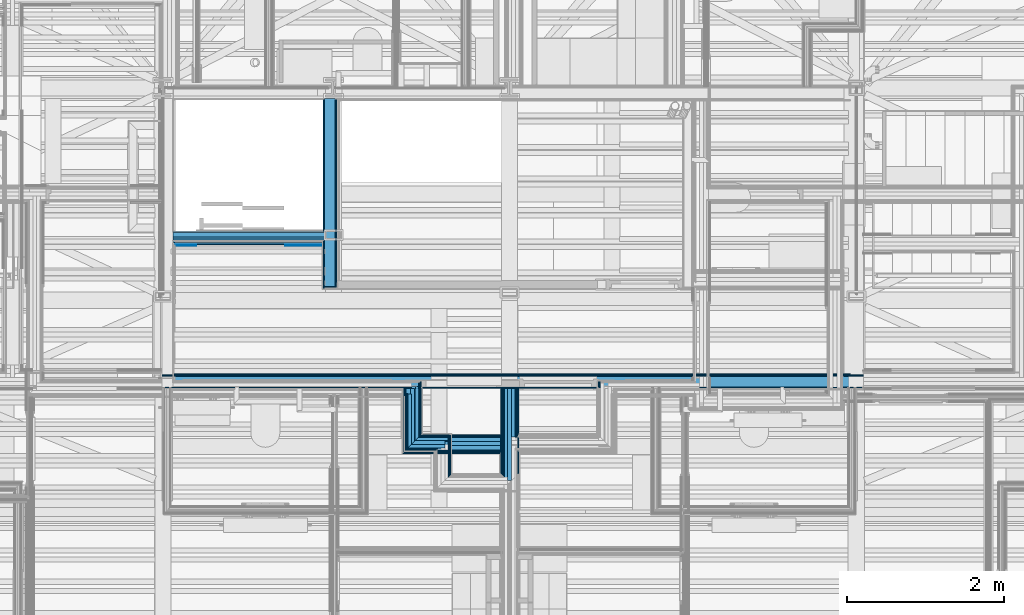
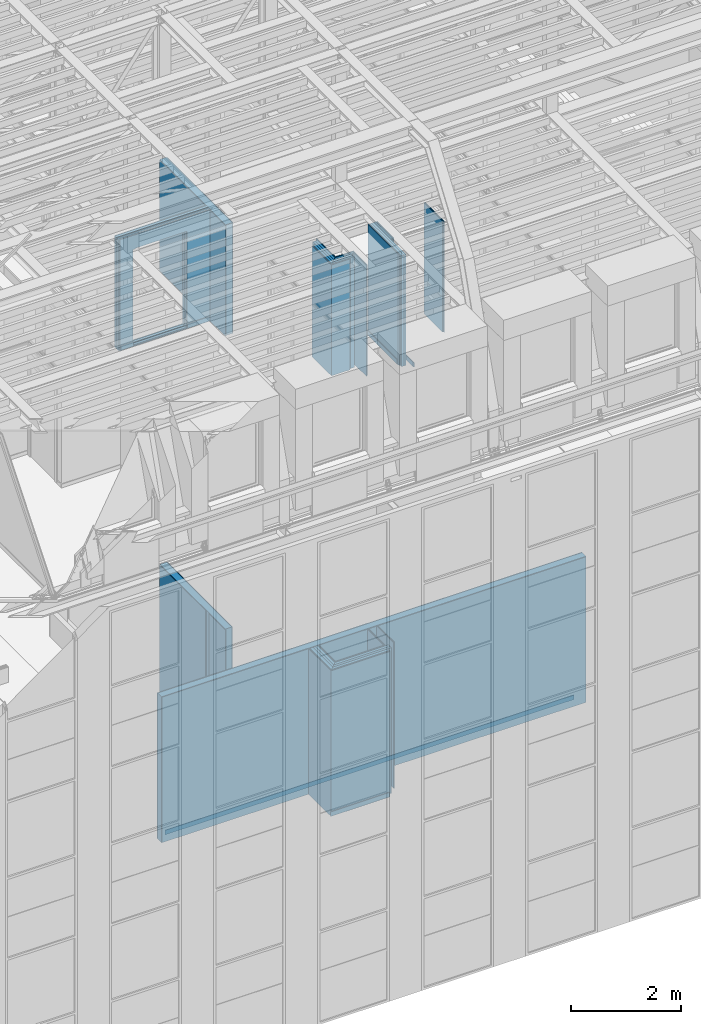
# One storey, part 35 of 183: 65 building element parts, 1 opening, 12 elements without a shape of their own.
"""IFC2X3 building model written with IfcOpenShell, lengths in metres."""

from ifc_helpers import new_model, entity, si_unit, converted_unit, derived_unit, money_unit, direction, frame, frame_2d, origin_with_axes, place, context, subcontext, project, spatial, polyline, rectangle, outline, extrude, material, type_object, element, aggregate, save


model = new_model("IFC2X3")

# Units and contexts
model_context = context("Model", 3, precision=1e-05, world=origin_with_axes(), true_north=direction((0.0, 1.0)))
body_context = subcontext(model_context, "Body", "Model", "MODEL_VIEW", scale=1.0)
ifc_project = project(units=[si_unit("LENGTHUNIT", "METRE"), si_unit("AREAUNIT", "SQUARE_METRE"), si_unit("VOLUMEUNIT", "CUBIC_METRE"), si_unit("ABSORBEDDOSEUNIT", "GRAY"), si_unit("AMOUNTOFSUBSTANCEUNIT", "MOLE"), si_unit("DOSEEQUIVALENTUNIT", "SIEVERT"), si_unit("ELECTRICCAPACITANCEUNIT", "FARAD"), si_unit("ELECTRICCHARGEUNIT", "COULOMB"), si_unit("ELECTRICCONDUCTANCEUNIT", "SIEMENS"), si_unit("ELECTRICCURRENTUNIT", "AMPERE"), si_unit("ELECTRICRESISTANCEUNIT", "OHM"), si_unit("ELECTRICVOLTAGEUNIT", "VOLT"), si_unit("ENERGYUNIT", "JOULE"), si_unit("FORCEUNIT", "NEWTON"), si_unit("FREQUENCYUNIT", "HERTZ"), si_unit("ILLUMINANCEUNIT", "LUX"), si_unit("INDUCTANCEUNIT", "HENRY"), si_unit("LUMINOUSFLUXUNIT", "LUMEN"), si_unit("LUMINOUSINTENSITYUNIT", "CANDELA"), si_unit("MAGNETICFLUXDENSITYUNIT", "TESLA"), si_unit("MAGNETICFLUXUNIT", "WEBER"), si_unit("MASSUNIT", "GRAM"), converted_unit("PLANEANGLEUNIT", "degree", entity("IfcReal", 0.0174532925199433), si_unit("PLANEANGLEUNIT", "RADIAN"), dimensions=[0, 0, 0, 0, 0, 0, 0]), si_unit("POWERUNIT", "WATT"), si_unit("PRESSUREUNIT", "PASCAL"), si_unit("RADIOACTIVITYUNIT", "BECQUEREL"), si_unit("SOLIDANGLEUNIT", "STERADIAN"), si_unit("THERMODYNAMICTEMPERATUREUNIT", "KELVIN"), si_unit("TIMEUNIT", "SECOND"), derived_unit("ACCELERATIONUNIT", [(si_unit("LENGTHUNIT", "METRE"), 1), (si_unit("TIMEUNIT", "SECOND"), -2)]), derived_unit("ANGULARVELOCITYUNIT", [(converted_unit("PLANEANGLEUNIT", "degree", entity("IfcReal", 0.0174532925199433), si_unit("PLANEANGLEUNIT", "RADIAN"), dimensions=[0, 0, 0, 0, 0, 0, 0]), 1), (si_unit("TIMEUNIT", "SECOND"), -1)]), derived_unit("CURVATUREUNIT", [(converted_unit("PLANEANGLEUNIT", "degree", entity("IfcReal", 0.0174532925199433), si_unit("PLANEANGLEUNIT", "RADIAN"), dimensions=[0, 0, 0, 0, 0, 0, 0]), 1), (si_unit("LENGTHUNIT", "METRE"), -1)]), derived_unit("DYNAMICVISCOSITYUNIT", [(si_unit("PRESSUREUNIT", "PASCAL"), 1), (si_unit("TIMEUNIT", "SECOND"), 1)]), derived_unit("HEATFLUXDENSITYUNIT", [(si_unit("POWERUNIT", "WATT"), 1), (si_unit("LENGTHUNIT", "METRE"), -2)]), derived_unit("HEATINGVALUEUNIT", [(si_unit("ENERGYUNIT", "JOULE"), 1), (si_unit("MASSUNIT", "GRAM"), -1)]), derived_unit("INTEGERCOUNTRATEUNIT", [(si_unit("TIMEUNIT", "SECOND"), -1)]), derived_unit("IONCONCENTRATIONUNIT", [(si_unit("MASSUNIT", "GRAM"), 1), (si_unit("VOLUMEUNIT", "CUBIC_METRE"), -1)]), derived_unit("ISOTHERMALMOISTURECAPACITYUNIT", [(si_unit("VOLUMEUNIT", "CUBIC_METRE"), 1), (si_unit("MASSUNIT", "GRAM"), -1)]), derived_unit("KINEMATICVISCOSITYUNIT", [(si_unit("AREAUNIT", "SQUARE_METRE"), 1), (si_unit("TIMEUNIT", "SECOND"), -1)]), derived_unit("LINEARFORCEUNIT", [(si_unit("FORCEUNIT", "NEWTON"), 1), (si_unit("LENGTHUNIT", "METRE"), -1)]), derived_unit("LINEARMOMENTUNIT", [(si_unit("FORCEUNIT", "NEWTON"), 1), (si_unit("LENGTHUNIT", "METRE"), -1)]), derived_unit("LINEARSTIFFNESSUNIT", [(si_unit("FORCEUNIT", "NEWTON"), 1), (si_unit("LENGTHUNIT", "METRE"), -1)]), derived_unit("LINEARVELOCITYUNIT", [(si_unit("LENGTHUNIT", "METRE"), 1), (si_unit("TIMEUNIT", "SECOND"), -1)]), derived_unit("LUMINOUSINTENSITYDISTRIBUTIONUNIT", [(si_unit("LUMINOUSINTENSITYUNIT", "CANDELA"), 1), (si_unit("LUMINOUSFLUXUNIT", "LUMEN"), -1)]), derived_unit("MASSDENSITYUNIT", [(si_unit("MASSUNIT", "GRAM"), 1), (si_unit("VOLUMEUNIT", "CUBIC_METRE"), -1)]), derived_unit("MASSFLOWRATEUNIT", [(si_unit("MASSUNIT", "GRAM"), 1), (si_unit("TIMEUNIT", "SECOND"), -1)]), derived_unit("MASSPERLENGTHUNIT", [(si_unit("MASSUNIT", "GRAM"), 1), (si_unit("LENGTHUNIT", "METRE"), -1)]), derived_unit("MODULUSOFELASTICITYUNIT", [(si_unit("FORCEUNIT", "NEWTON"), 1), (si_unit("AREAUNIT", "SQUARE_METRE"), -1)]), derived_unit("MODULUSOFLINEARSUBGRADEREACTIONUNIT", [(si_unit("FORCEUNIT", "NEWTON"), 1), (si_unit("LENGTHUNIT", "METRE"), -2)]), derived_unit("MODULUSOFROTATIONALSUBGRADEREACTIONUNIT", [(si_unit("FORCEUNIT", "NEWTON"), 1), (si_unit("LENGTHUNIT", "METRE"), 1)]), derived_unit("MODULUSOFSUBGRADEREACTIONUNIT", [(si_unit("FORCEUNIT", "NEWTON"), 1), (si_unit("VOLUMEUNIT", "CUBIC_METRE"), -1)]), derived_unit("MOISTUREDIFFUSIVITYUNIT", [(si_unit("VOLUMEUNIT", "CUBIC_METRE"), 1), (si_unit("TIMEUNIT", "SECOND"), -1)]), derived_unit("MOLECULARWEIGHTUNIT", [(si_unit("MASSUNIT", "GRAM"), 1), (si_unit("AMOUNTOFSUBSTANCEUNIT", "MOLE"), -1)]), derived_unit("PLANARFORCEUNIT", [(si_unit("FORCEUNIT", "NEWTON"), 1), (si_unit("LENGTHUNIT", "METRE"), -2)]), derived_unit("ROTATIONALFREQUENCYUNIT", [(si_unit("TIMEUNIT", "SECOND"), -1)]), derived_unit("ROTATIONALMASSUNIT", [(si_unit("MASSUNIT", "GRAM"), 1), (si_unit("LENGTHUNIT", "METRE"), 2)]), derived_unit("ROTATIONALSTIFFNESSUNIT", [(si_unit("FORCEUNIT", "NEWTON"), 1), (si_unit("LENGTHUNIT", "METRE"), 1), (converted_unit("PLANEANGLEUNIT", "degree", entity("IfcReal", 0.0174532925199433), si_unit("PLANEANGLEUNIT", "RADIAN"), dimensions=[0, 0, 0, 0, 0, 0, 0]), -1)]), derived_unit("SECTIONAREAINTEGRALUNIT", [(si_unit("LENGTHUNIT", "METRE"), 5)]), derived_unit("SECTIONMODULUSUNIT", [(si_unit("LENGTHUNIT", "METRE"), 3)]), derived_unit("SHEARMODULUSUNIT", [(si_unit("FORCEUNIT", "NEWTON"), 1), (si_unit("AREAUNIT", "SQUARE_METRE"), -1)]), derived_unit("SOUNDPOWERUNIT", [(si_unit("ENERGYUNIT", "JOULE"), 1), (si_unit("TIMEUNIT", "SECOND"), -1)]), derived_unit("SPECIFICHEATCAPACITYUNIT", [(si_unit("FORCEUNIT", "NEWTON"), 1), (si_unit("MASSUNIT", "GRAM"), -1), (si_unit("THERMODYNAMICTEMPERATUREUNIT", "KELVIN"), -1)]), derived_unit("TEMPERATUREGRADIENTUNIT", [(si_unit("THERMODYNAMICTEMPERATUREUNIT", "KELVIN"), 1), (si_unit("LENGTHUNIT", "METRE"), -1)]), derived_unit("THERMALADMITTANCEUNIT", [(si_unit("POWERUNIT", "WATT"), 1), (si_unit("AREAUNIT", "SQUARE_METRE"), -1), (si_unit("THERMODYNAMICTEMPERATUREUNIT", "KELVIN"), -1)]), derived_unit("THERMALCONDUCTANCEUNIT", [(si_unit("POWERUNIT", "WATT"), 1), (si_unit("LENGTHUNIT", "METRE"), -1), (si_unit("THERMODYNAMICTEMPERATUREUNIT", "KELVIN"), -1)]), derived_unit("THERMALEXPANSIONCOEFFICIENTUNIT", [(si_unit("THERMODYNAMICTEMPERATUREUNIT", "KELVIN"), -1)]), derived_unit("THERMALRESISTANCEUNIT", [(si_unit("AREAUNIT", "SQUARE_METRE"), 1), (si_unit("POWERUNIT", "WATT"), -1)]), derived_unit("THERMALTRANSMITTANCEUNIT", [(si_unit("POWERUNIT", "WATT"), 1), (si_unit("AREAUNIT", "SQUARE_METRE"), -1), (si_unit("THERMODYNAMICTEMPERATUREUNIT", "KELVIN"), -1)]), derived_unit("TORQUEUNIT", [(si_unit("FORCEUNIT", "NEWTON"), 1), (si_unit("LENGTHUNIT", "METRE"), 1)]), derived_unit("VAPORPERMEABILITYUNIT", [(si_unit("MASSUNIT", "GRAM"), 1), (si_unit("TIMEUNIT", "SECOND"), -1)]), derived_unit("VOLUMETRICFLOWRATEUNIT", [(si_unit("VOLUMEUNIT", "CUBIC_METRE"), 1), (si_unit("TIMEUNIT", "SECOND"), -1)]), derived_unit("WARPINGCONSTANTUNIT", [(si_unit("LENGTHUNIT", "METRE"), 6)]), derived_unit("WARPINGMOMENTUNIT", [(si_unit("FORCEUNIT", "NEWTON"), 1), (si_unit("LENGTHUNIT", "METRE"), 2)]), money_unit("GBP")], contexts=[model_context])

# Site, building, storey
site_placement = place(None, origin_with_axes())
site = spatial("IfcSite", under=ifc_project, at=site_placement, Name="Site", CompositionType="ELEMENT")
building_placement = place(site_placement, origin_with_axes())
building = spatial("IfcBuilding", under=site, at=building_placement, Name="Building01", CompositionType="ELEMENT")
storey_placement = place(building_placement, frame((0.0, 0.0, 5.15), z_axis=(0.0, 0.0, 1.0), x_axis=(1.0, 0.0, 0.0)))
storey = spatial("IfcBuildingStorey", under=building, at=storey_placement, Name="1F", CompositionType="ELEMENT", Elevation=5.15)

# Wall, building element parts
wall_type_1 = type_object("IfcWallType", Name="SHE_A-Walls_Type03a_BlockworkWall_170mm", PredefinedType="NOTDEFINED")
wall_1_placement = place(storey_placement, frame((11.145, 6.275, 0.0), z_axis=(0.0, 0.0, 1.0), x_axis=(0.0, 1.0, 0.0)))
wall_1 = element("IfcWall", 1, at=wall_1_placement, inside=storey, type_object=wall_type_1, Name="4B", ObjectType="SHE_A-Walls_Type03a_BlockworkWall_170mm")
ifc_material_1 = material(Name="A_BSUK_WallInternal_Finishes_Plasterboard")
placement_1 = place(wall_1_placement, origin_with_axes())
building_element_part_1 = element("IfcBuildingElementPart", 2, at=placement_1, material=ifc_material_1, Name="2", context=body_context, shape_type="SweptSolid", body=[
    extrude(rectangle(XDim=2.375, YDim=0.015, at=frame_2d((1.1875, -0.1475), x_axis=(-1.0, 0.0))), origin_with_axes(), (0.0, 0.0, 1.0), 3.24),
])
ifc_material_2 = material(Name="A_BSUK_WallsInternal_Block")
building_element_part_2 = element("IfcBuildingElementPart", 3, at=placement_1, material=ifc_material_2, Name="3", context=body_context, shape_type="SweptSolid", body=[
    extrude(rectangle(XDim=2.39, YDim=0.14, at=frame_2d((1.195, -0.07), x_axis=(-1.0, 0.0))), origin_with_axes(), (0.0, 0.0, 1.0), 3.24),
])
ifc_material_3 = material(Name="A_BSUK_WallInternal_Finishes_Plaster")
building_element_part_3 = element("IfcBuildingElementPart", 4, at=placement_1, material=ifc_material_3, Name="4", context=body_context, shape_type="SweptSolid", body=[
    extrude(outline(polyline([(0.575, 0.015), (-0.025, 0.015), (-0.025, 0.0), (0.59, 0.0), (0.575, 0.015)])), origin_with_axes(), (0.0, 0.0, 1.0), 3.24),
])
building_element_part_4 = element("IfcBuildingElementPart", 5, at=placement_1, material=ifc_material_3, Name="5", context=body_context, shape_type="SweptSolid", body=[
    extrude(outline(polyline([(2.375, 0.015), (0.705, 0.015), (0.69, 0.0), (2.375, 0.0), (2.375, 0.015)])), origin_with_axes(), (0.0, 0.0, 1.0), 3.24),
])
aggregate(wall_1, [building_element_part_1, building_element_part_2, building_element_part_3, building_element_part_4])

wall_type_2 = type_object("IfcWallType", Name="SHE_A-Walls_Type01c_Partywall_225mm_twin_tall", PredefinedType="NOTDEFINED")
wall_2_placement = place(storey_placement, frame((12.288, 4.302428, 0.0), z_axis=(0.0, 0.0, 1.0), x_axis=(1.0, 0.0, 0.0)))
wall_2 = element("IfcWall", 6, at=wall_2_placement, inside=storey, type_object=wall_type_2, Name="1C", ObjectType="SHE_A-Walls_Type01c_Partywall_225mm_twin_tall")
ifc_material_4 = material(Name="A_BSUK_Walls_Timber")
placement_2 = place(wall_2_placement, origin_with_axes())
building_element_part_5 = element("IfcBuildingElementPart", 7, at=placement_2, material=ifc_material_4, Name="1", context=body_context, shape_type="SweptSolid", body=[
    extrude(rectangle(XDim=1.2375, YDim=0.015, at=frame_2d((0.46575, -0.1455), x_axis=(-1.0, 0.0))), frame((0.0, 0.0, 0.015), z_axis=(0.0, 0.0, 1.0), x_axis=(1.0, 0.0, 0.0)), (0.0, 0.0, 1.0), 0.1),
])
building_element_part_6 = element("IfcBuildingElementPart", 8, at=placement_2, material=ifc_material_1, Name="2", context=body_context, shape_type="SweptSolid", body=[
    extrude(outline(polyline([(1.0995, -0.123), (-0.123, -0.123), (-0.138, -0.138), (1.0995, -0.138), (1.0995, -0.123)])), origin_with_axes(), (0.0, 0.0, 1.0), 3.24),
])
building_element_part_7 = element("IfcBuildingElementPart", 9, at=placement_2, material=ifc_material_1, Name="3", context=body_context, shape_type="SweptSolid", body=[
    extrude(outline(polyline([(1.1145, -0.108), (-0.108, -0.108), (-0.123, -0.123), (1.1145, -0.123), (1.1145, -0.108)])), origin_with_axes(), (0.0, 0.0, 1.0), 3.24),
])
ifc_material_5 = material(Name="Air Cavity")
building_element_part_8 = element("IfcBuildingElementPart", 10, at=placement_2, material=ifc_material_5, Name="4", context=body_context, shape_type="SweptSolid", body=[
    extrude(outline(polyline([(1.1145, -0.05), (-0.05, -0.05), (-0.108, -0.108), (1.1145, -0.108), (1.1145, -0.05)])), origin_with_axes(), (0.0, 0.0, 1.0), 3.24),
])
ifc_material_6 = material(Name="A_BSUK_Insulation")
building_element_part_9 = element("IfcBuildingElementPart", 11, at=placement_2, material=ifc_material_6, Name="5", context=body_context, shape_type="SweptSolid", body=[
    extrude(outline(polyline([(1.1875, 0.0), (0.0, 0.0), (-0.05, -0.05), (1.1875, -0.05), (1.1875, 0.0)])), origin_with_axes(), (0.0, 0.0, 1.0), 3.24),
])
building_element_part_10 = element("IfcBuildingElementPart", 12, at=placement_2, material=ifc_material_5, Name="6", context=body_context, shape_type="SweptSolid", body=[
    extrude(outline(polyline([(1.1875, 0.057), (0.057, 0.057), (0.0, 0.0), (1.1875, 0.0), (1.1875, 0.057)])), origin_with_axes(), (0.0, 0.0, 1.0), 3.24),
])
building_element_part_11 = element("IfcBuildingElementPart", 13, at=placement_2, material=ifc_material_1, Name="7", context=body_context, shape_type="SweptSolid", body=[
    extrude(outline(polyline([(1.1145, 0.072), (0.072, 0.072), (0.057, 0.057), (1.1145, 0.057), (1.1145, 0.072)])), origin_with_axes(), (0.0, 0.0, 1.0), 3.24),
])
building_element_part_12 = element("IfcBuildingElementPart", 14, at=placement_2, material=ifc_material_1, Name="8", context=body_context, shape_type="SweptSolid", body=[
    extrude(outline(polyline([(1.1145, 0.087), (0.087, 0.087), (0.072, 0.072), (1.1145, 0.072), (1.1145, 0.087)])), origin_with_axes(), (0.0, 0.0, 1.0), 3.24),
])
aggregate(wall_2, [building_element_part_5, building_element_part_6, building_element_part_7, building_element_part_8, building_element_part_9, building_element_part_10, building_element_part_11, building_element_part_12])

wall_3_placement = place(storey_placement, frame((13.5005, 4.995, 0.0), z_axis=(0.0, 0.0, 1.0), x_axis=(0.0, -1.0, 0.0)))
wall_3 = element("IfcWall", 15, at=wall_3_placement, inside=storey, type_object=wall_type_2, Name="1C", ObjectType="SHE_A-Walls_Type01c_Partywall_225mm_twin_tall")
placement_3 = place(wall_3_placement, origin_with_axes())
building_element_part_13 = element("IfcBuildingElementPart", 16, at=placement_3, material=ifc_material_1, Name="2", context=body_context, shape_type="SweptSolid", body=[
    extrude(rectangle(XDim=0.590572, YDim=0.015, at=frame_2d((0.310286, -0.1055), x_axis=(-1.0, 0.0))), origin_with_axes(), (0.0, 0.0, 1.0), 3.24),
])
building_element_part_14 = element("IfcBuildingElementPart", 17, at=placement_3, material=ifc_material_1, Name="4", context=body_context, shape_type="SweptSolid", body=[
    extrude(rectangle(XDim=0.620572, YDim=0.015, at=frame_2d((0.325286, -0.0905), x_axis=(-1.0, 0.0))), origin_with_axes(), (0.0, 0.0, 1.0), 3.24),
])
building_element_part_15 = element("IfcBuildingElementPart", 18, at=placement_3, material=ifc_material_1, Name="9", context=body_context, shape_type="SweptSolid", body=[
    extrude(rectangle(XDim=0.620572, YDim=0.015, at=frame_2d((0.325286, 0.0895), x_axis=(-1.0, 0.0))), origin_with_axes(), (0.0, 0.0, 1.0), 3.24),
])
building_element_part_16 = element("IfcBuildingElementPart", 19, at=placement_3, material=ifc_material_1, Name="11", context=body_context, shape_type="SweptSolid", body=[
    extrude(rectangle(XDim=0.590572, YDim=0.015, at=frame_2d((0.310286, 0.1045), x_axis=(-1.0, 0.0))), origin_with_axes(), (0.0, 0.0, 1.0), 3.24),
])
aggregate(wall_3, [building_element_part_13, building_element_part_14, building_element_part_15, building_element_part_16])

wall_4_placement = place(storey_placement, frame((12.288, 4.98, 0.0), z_axis=(0.0, 0.0, 1.0), x_axis=(0.0, -1.0, 0.0)))
wall_4 = element("IfcWall", 20, at=wall_4_placement, inside=storey, type_object=wall_type_2, Name="1C", ObjectType="SHE_A-Walls_Type01c_Partywall_225mm_twin_tall")
placement_4 = place(wall_4_placement, origin_with_axes())
building_element_part_17 = element("IfcBuildingElementPart", 21, at=placement_4, material=ifc_material_1, Name="3", context=body_context, shape_type="SweptSolid", body=[
    extrude(outline(polyline([(0.800572, -0.123), (0.0, -0.123), (0.0, -0.138), (0.815572, -0.138), (0.800572, -0.123)])), origin_with_axes(), (0.0, 0.0, 1.0), 3.24),
])
building_element_part_18 = element("IfcBuildingElementPart", 22, at=placement_4, material=ifc_material_1, Name="4", context=body_context, shape_type="SweptSolid", body=[
    extrude(outline(polyline([(0.785572, -0.108), (0.0, -0.108), (0.0, -0.123), (0.800572, -0.123), (0.785572, -0.108)])), origin_with_axes(), (0.0, 0.0, 1.0), 3.24),
])
building_element_part_19 = element("IfcBuildingElementPart", 23, at=placement_4, material=ifc_material_5, Name="5", context=body_context, shape_type="SweptSolid", body=[
    extrude(outline(polyline([(0.727572, -0.05), (0.0, -0.05), (0.0, -0.108), (0.785572, -0.108), (0.727572, -0.05)])), origin_with_axes(), (0.0, 0.0, 1.0), 3.24),
])
building_element_part_20 = element("IfcBuildingElementPart", 24, at=placement_4, material=ifc_material_6, Name="6", context=body_context, shape_type="SweptSolid", body=[
    extrude(outline(polyline([(0.677572, 0.0), (0.0, 0.0), (0.0, -0.05), (0.727572, -0.05), (0.677572, 0.0)])), origin_with_axes(), (0.0, 0.0, 1.0), 3.24),
])
building_element_part_21 = element("IfcBuildingElementPart", 25, at=placement_4, material=ifc_material_5, Name="7", context=body_context, shape_type="SweptSolid", body=[
    extrude(outline(polyline([(0.620572, 0.057), (0.0, 0.057), (0.0, 0.0), (0.677572, 0.0), (0.620572, 0.057)])), origin_with_axes(), (0.0, 0.0, 1.0), 3.24),
])
building_element_part_22 = element("IfcBuildingElementPart", 26, at=placement_4, material=ifc_material_1, Name="8", context=body_context, shape_type="SweptSolid", body=[
    extrude(outline(polyline([(0.605572, 0.072), (0.0, 0.072), (0.0, 0.057), (0.620572, 0.057), (0.605572, 0.072)])), origin_with_axes(), (0.0, 0.0, 1.0), 3.24),
])
building_element_part_23 = element("IfcBuildingElementPart", 27, at=placement_4, material=ifc_material_1, Name="9", context=body_context, shape_type="SweptSolid", body=[
    extrude(outline(polyline([(0.590572, 0.087), (0.0, 0.087), (0.0, 0.072), (0.605572, 0.072), (0.590572, 0.087)])), origin_with_axes(), (0.0, 0.0, 1.0), 3.24),
])
aggregate(wall_4, [building_element_part_17, building_element_part_18, building_element_part_19, building_element_part_20, building_element_part_21, building_element_part_22, building_element_part_23])

wall_5_placement = place(storey_placement, frame((9.06, 4.995, 0.0), z_axis=(0.0, 0.0, 1.0), x_axis=(1.0, 0.0, 0.0)))
wall_5 = element("IfcWall", 28, at=wall_5_placement, inside=storey, type_object=wall_type_1, Name="4B", ObjectType="SHE_A-Walls_Type03a_BlockworkWall_170mm")
placement_5 = place(wall_5_placement, origin_with_axes())
building_element_part_24 = element("IfcBuildingElementPart", 29, at=placement_5, material=ifc_material_1, Name="7", context=body_context, shape_type="SweptSolid", body=[
    extrude(rectangle(XDim=8.925, YDim=0.015, at=frame_2d((4.4625, -0.0075), x_axis=(-1.0, 0.0))), origin_with_axes(), (0.0, 0.0, 1.0), 3.24),
])
building_element_part_25 = element("IfcBuildingElementPart", 30, at=placement_5, material=ifc_material_2, Name="8", context=body_context, shape_type="SweptSolid", body=[
    extrude(rectangle(XDim=8.94, YDim=0.14, at=frame_2d((4.47, 0.07), x_axis=(-1.0, 0.0))), origin_with_axes(), (0.0, 0.0, 1.0), 3.24),
])
building_element_part_26 = element("IfcBuildingElementPart", 31, at=placement_5, material=ifc_material_3, Name="9", context=body_context, shape_type="SweptSolid", body=[
    extrude(rectangle(XDim=8.94, YDim=0.015, at=frame_2d((4.47, 0.1475), x_axis=(-1.0, 0.0))), origin_with_axes(), (0.0, 0.0, 1.0), 3.24),
])
building_element_part_27 = element("IfcBuildingElementPart", 32, at=placement_5, material=ifc_material_4, Name="10", context=body_context, shape_type="SweptSolid", body=[
    extrude(rectangle(XDim=8.6, YDim=0.015, at=frame_2d((4.47, 0.1625), x_axis=(-1.0, 0.0))), frame((0.0, 0.0, 0.015), z_axis=(0.0, 0.0, 1.0), x_axis=(1.0, 0.0, 0.0)), (0.0, 0.0, 1.0), 0.1),
])
aggregate(wall_5, [building_element_part_24, building_element_part_25, building_element_part_26, building_element_part_27])

wall_6_placement = place(storey_placement, frame((11.145, 6.263, 9.78), z_axis=(0.0, 0.0, 1.0), x_axis=(0.0, 1.0, 0.0)))
wall_6 = element("IfcWall", 33, at=wall_6_placement, inside=storey, type_object=wall_type_1, Name="4B", ObjectType="SHE_A-Walls_Type03a_BlockworkWall_170mm")
placement_6 = place(wall_6_placement, origin_with_axes())
building_element_part_28 = element("IfcBuildingElementPart", 34, at=placement_6, material=ifc_material_1, Name="2", context=body_context, shape_type="SweptSolid", body=[
    extrude(rectangle(XDim=2.387, YDim=0.015, at=frame_2d((1.1935, -0.1475), x_axis=(-1.0, 0.0))), origin_with_axes(), (0.0, 0.0, 1.0), 2.468),
])
building_element_part_29 = element("IfcBuildingElementPart", 35, at=placement_6, material=ifc_material_2, Name="3", context=body_context, shape_type="SweptSolid", body=[
    extrude(rectangle(XDim=2.402, YDim=0.14, at=frame_2d((1.201, -0.07), x_axis=(-1.0, 0.0))), origin_with_axes(), (0.0, 0.0, 1.0), 2.468),
])
building_element_part_30 = element("IfcBuildingElementPart", 36, at=placement_6, material=ifc_material_3, Name="4", context=body_context, shape_type="SweptSolid", body=[
    extrude(rectangle(XDim=0.557, YDim=0.015, at=frame_2d((0.2655, 0.0075), x_axis=(-1.0, 0.0))), origin_with_axes(), (0.0, 0.0, 1.0), 2.468),
])
building_element_part_31 = element("IfcBuildingElementPart", 37, at=placement_6, material=ifc_material_3, Name="5", context=body_context, shape_type="SweptSolid", body=[
    extrude(outline(polyline([(2.387, 0.015), (0.717, 0.015), (0.702, 0.0), (2.387, 0.0), (2.387, 0.015)])), origin_with_axes(), (0.0, 0.0, 1.0), 2.468),
])
aggregate(wall_6, [building_element_part_28, building_element_part_29, building_element_part_30, building_element_part_31])

wall_type_3 = type_object("IfcWallType", Name="SHE_A-Walls_Type01d_Partywall_200mm_twin", PredefinedType="NOTDEFINED")
wall_7_placement = place(storey_placement, frame((12.25, 5.005, 9.78), z_axis=(0.0, 0.0, 1.0), x_axis=(0.0, -1.0, 0.0)))
wall_7 = element("IfcWall", 38, at=wall_7_placement, inside=storey, type_object=wall_type_3, Name="1D", ObjectType="SHE_A-Walls_Type01d_Partywall_200mm_twin")
placement_7 = place(wall_7_placement, origin_with_axes())
building_element_part_32 = element("IfcBuildingElementPart", 39, at=placement_7, material=ifc_material_1, Name="2", context=body_context, shape_type="SweptSolid", body=[
    extrude(outline(polyline([(0.800572, -0.06), (0.11, -0.06), (0.11, -0.075), (0.815572, -0.075), (0.800572, -0.06)])), origin_with_axes(), (0.0, 0.0, 1.0), 2.468),
])
building_element_part_33 = element("IfcBuildingElementPart", 40, at=placement_7, material=ifc_material_1, Name="3", context=body_context, shape_type="SweptSolid", body=[
    extrude(outline(polyline([(0.785572, -0.045), (0.095, -0.045), (0.095, -0.06), (0.800572, -0.06), (0.785572, -0.045)])), origin_with_axes(), (0.0, 0.0, 1.0), 2.468),
])
building_element_part_34 = element("IfcBuildingElementPart", 41, at=placement_7, material=ifc_material_5, Name="4", context=body_context, shape_type="SweptSolid", body=[
    extrude(outline(polyline([(0.740572, 0.0), (0.095, 0.0), (0.095, -0.045), (0.785572, -0.045), (0.740572, 0.0)])), origin_with_axes(), (0.0, 0.0, 1.0), 2.468),
])
building_element_part_35 = element("IfcBuildingElementPart", 42, at=placement_7, material=ifc_material_6, Name="5", context=body_context, shape_type="SweptSolid", body=[
    extrude(outline(polyline([(0.690572, 0.05), (0.0, 0.05), (0.0, 0.0), (0.740572, 0.0), (0.690572, 0.05)])), origin_with_axes(), (0.0, 0.0, 1.0), 2.468),
])
building_element_part_36 = element("IfcBuildingElementPart", 43, at=placement_7, material=ifc_material_5, Name="6", context=body_context, shape_type="SweptSolid", body=[
    extrude(outline(polyline([(0.645572, 0.095), (0.0, 0.095), (0.0, 0.05), (0.690572, 0.05), (0.645572, 0.095)])), origin_with_axes(), (0.0, 0.0, 1.0), 2.468),
])
building_element_part_37 = element("IfcBuildingElementPart", 44, at=placement_7, material=ifc_material_1, Name="7", context=body_context, shape_type="SweptSolid", body=[
    extrude(outline(polyline([(0.630572, 0.11), (-0.045, 0.11), (-0.045, 0.095), (0.645572, 0.095), (0.630572, 0.11)])), origin_with_axes(), (0.0, 0.0, 1.0), 2.468),
])
building_element_part_38 = element("IfcBuildingElementPart", 45, at=placement_7, material=ifc_material_1, Name="8", context=body_context, shape_type="SweptSolid", body=[
    extrude(outline(polyline([(0.615572, 0.125), (-0.06, 0.125), (-0.06, 0.11), (0.630572, 0.11), (0.615572, 0.125)])), origin_with_axes(), (0.0, 0.0, 1.0), 2.468),
])
aggregate(wall_7, [building_element_part_32, building_element_part_33, building_element_part_34, building_element_part_35, building_element_part_36, building_element_part_37, building_element_part_38])

wall_8_placement = place(storey_placement, frame((14.7, 5.005, 9.78), z_axis=(0.0, 0.0, 1.0), x_axis=(0.0, -1.0, 0.0)))
wall_8 = element("IfcWall", 46, at=wall_8_placement, inside=storey, type_object=wall_type_3, Name="1D", ObjectType="SHE_A-Walls_Type01d_Partywall_200mm_twin")
placement_8 = place(wall_8_placement, origin_with_axes())
building_element_part_39 = element("IfcBuildingElementPart", 47, at=placement_8, material=ifc_material_1, Name="2", context=body_context, shape_type="SweptSolid", body=[
    extrude(outline(polyline([(0.630572, -0.06), (-0.06, -0.06), (-0.06, -0.075), (0.615572, -0.075), (0.630572, -0.06)])), origin_with_axes(), (0.0, 0.0, 1.0), 2.468),
])
building_element_part_40 = element("IfcBuildingElementPart", 48, at=placement_8, material=ifc_material_1, Name="3", context=body_context, shape_type="SweptSolid", body=[
    extrude(outline(polyline([(0.645572, -0.045), (-0.06, -0.045), (-0.06, -0.06), (0.630572, -0.06), (0.645572, -0.045)])), origin_with_axes(), (0.0, 0.0, 1.0), 2.468),
])
aggregate(wall_8, [building_element_part_39, building_element_part_40])

wall_9_placement = place(storey_placement, frame((13.525, 3.805, 9.78), z_axis=(0.0, 0.0, 1.0), x_axis=(0.0, 1.0, 0.0)))
wall_9 = element("IfcWall", 49, at=wall_9_placement, inside=storey, type_object=wall_type_3, Name="1D", ObjectType="SHE_A-Walls_Type01d_Partywall_200mm_twin")
placement_9 = place(wall_9_placement, origin_with_axes())
building_element_part_41 = element("IfcBuildingElementPart", 50, at=placement_9, material=ifc_material_4, Name="1", context=body_context, shape_type="SweptSolid", body=[
    extrude(outline(polyline([(1.175, -0.075), (-0.125, -0.075), (-0.14, -0.09), (1.175, -0.09), (1.175, -0.075)])), frame((0.0, 0.0, 0.015), z_axis=(0.0, 0.0, 1.0), x_axis=(1.0, 0.0, 0.0)), (0.0, 0.0, 1.0), 0.1),
])
building_element_part_42 = element("IfcBuildingElementPart", 51, at=placement_9, material=ifc_material_1, Name="2", context=body_context, shape_type="SweptSolid", body=[
    extrude(rectangle(XDim=0.605572, YDim=0.015, at=frame_2d((0.872214, -0.0675), x_axis=(-1.0, 0.0))), origin_with_axes(), (0.0, 0.0, 1.0), 2.468),
])
building_element_part_43 = element("IfcBuildingElementPart", 52, at=placement_9, material=ifc_material_1, Name="3", context=body_context, shape_type="SweptSolid", body=[
    extrude(rectangle(XDim=0.620572, YDim=0.015, at=frame_2d((0.864714, -0.0525), x_axis=(-1.0, 0.0))), origin_with_axes(), (0.0, 0.0, 1.0), 2.468),
])
building_element_part_44 = element("IfcBuildingElementPart", 53, at=placement_9, material=ifc_material_5, Name="4", context=body_context, shape_type="SweptSolid", body=[
    extrude(rectangle(XDim=0.620572, YDim=0.045, at=frame_2d((0.864714, -0.0225), x_axis=(-1.0, 0.0))), origin_with_axes(), (0.0, 0.0, 1.0), 2.468),
])
building_element_part_45 = element("IfcBuildingElementPart", 54, at=placement_9, material=ifc_material_6, Name="5", context=body_context, shape_type="SweptSolid", body=[
    extrude(rectangle(XDim=1.175, YDim=0.05, at=frame_2d((0.5875, 0.025), x_axis=(-1.0, 0.0))), origin_with_axes(), (0.0, 0.0, 1.0), 2.468),
])
building_element_part_46 = element("IfcBuildingElementPart", 55, at=placement_9, material=ifc_material_5, Name="6", context=body_context, shape_type="SweptSolid", body=[
    extrude(rectangle(XDim=1.175, YDim=0.045, at=frame_2d((0.5875, 0.0725), x_axis=(-1.0, 0.0))), origin_with_axes(), (0.0, 0.0, 1.0), 2.468),
])
building_element_part_47 = element("IfcBuildingElementPart", 56, at=placement_9, material=ifc_material_1, Name="7", context=body_context, shape_type="SweptSolid", body=[
    extrude(outline(polyline([(1.175, 0.11), (0.06, 0.11), (0.045, 0.095), (1.175, 0.095), (1.175, 0.11)])), origin_with_axes(), (0.0, 0.0, 1.0), 2.468),
])
building_element_part_48 = element("IfcBuildingElementPart", 57, at=placement_9, material=ifc_material_1, Name="8", context=body_context, shape_type="SweptSolid", body=[
    extrude(outline(polyline([(1.175, 0.125), (0.075, 0.125), (0.06, 0.11), (1.175, 0.11), (1.175, 0.125)])), origin_with_axes(), (0.0, 0.0, 1.0), 2.468),
])
building_element_part_49 = element("IfcBuildingElementPart", 58, at=placement_9, material=ifc_material_4, Name="9", context=body_context, shape_type="SweptSolid", body=[
    extrude(outline(polyline([(1.175, 0.14), (0.09, 0.14), (0.075, 0.125), (1.175, 0.125), (1.175, 0.14)])), frame((0.0, 0.0, 0.015), z_axis=(0.0, 0.0, 1.0), x_axis=(1.0, 0.0, 0.0)), (0.0, 0.0, 1.0), 0.1),
])
aggregate(wall_9, [building_element_part_41, building_element_part_42, building_element_part_43, building_element_part_44, building_element_part_45, building_element_part_46, building_element_part_47, building_element_part_48, building_element_part_49])

wall_10_placement = place(storey_placement, frame((12.65, 4.264428, 9.78), z_axis=(0.0, 0.0, 1.0), x_axis=(0.0, -1.0, 0.0)))
wall_10 = element("IfcWall", 59, at=wall_10_placement, inside=storey, type_object=wall_type_3, Name="1D", ObjectType="SHE_A-Walls_Type01d_Partywall_200mm_twin")
placement_10 = place(wall_10_placement, origin_with_axes())
building_element_part_50 = element("IfcBuildingElementPart", 60, at=placement_10, material=ifc_material_1, Name="7", context=body_context, shape_type="SweptSolid", body=[
    extrude(outline(polyline([(0.399428, 0.085), (-0.095, 0.085), (-0.095, 0.07), (0.414428, 0.07), (0.399428, 0.085)])), origin_with_axes(), (0.0, 0.0, 1.0), 2.468),
])
building_element_part_51 = element("IfcBuildingElementPart", 61, at=placement_10, material=ifc_material_1, Name="8", context=body_context, shape_type="SweptSolid", body=[
    extrude(outline(polyline([(0.384428, 0.1), (-0.125, 0.1), (-0.125, 0.085), (0.399428, 0.085), (0.384428, 0.1)])), origin_with_axes(), (0.0, 0.0, 1.0), 2.468),
])
aggregate(wall_10, [building_element_part_50, building_element_part_51])

wall_11_placement = place(storey_placement, frame((14.7, 4.314428, 9.78), z_axis=(0.0, 0.0, 1.0), x_axis=(-1.0, 0.0, 0.0)))
wall_11 = element("IfcWall", 62, at=wall_11_placement, inside=storey, type_object=wall_type_3, Name="1D", ObjectType="SHE_A-Walls_Type01d_Partywall_200mm_twin")
placement_11 = place(wall_11_placement, origin_with_axes())
building_element_part_52 = element("IfcBuildingElementPart", 63, at=placement_11, material=ifc_material_1, Name="4", context=body_context, shape_type="SweptSolid", body=[
    extrude(outline(polyline([(2.34, -0.06), (1.965, -0.06), (1.965, -0.075), (2.325, -0.075), (2.34, -0.06)])), origin_with_axes(), (0.0, 0.0, 1.0), 2.468),
])
building_element_part_53 = element("IfcBuildingElementPart", 64, at=placement_11, material=ifc_material_1, Name="6", context=body_context, shape_type="SweptSolid", body=[
    extrude(outline(polyline([(2.355, -0.045), (1.965, -0.045), (1.965, -0.06), (2.34, -0.06), (2.355, -0.045)])), origin_with_axes(), (0.0, 0.0, 1.0), 2.468),
])
building_element_part_54 = element("IfcBuildingElementPart", 65, at=placement_11, material=ifc_material_5, Name="7", context=body_context, shape_type="SweptSolid", body=[
    extrude(outline(polyline([(2.4, 0.0), (1.965, 0.0), (1.965, -0.045), (2.355, -0.045), (2.4, 0.0)])), origin_with_axes(), (0.0, 0.0, 1.0), 2.468),
])
building_element_part_55 = element("IfcBuildingElementPart", 66, at=placement_11, material=ifc_material_6, Name="9", context=body_context, shape_type="SweptSolid", body=[
    extrude(outline(polyline([(2.45, 0.05), (2.025, 0.05), (2.025, 0.0), (2.4, 0.0), (2.45, 0.05)])), origin_with_axes(), (0.0, 0.0, 1.0), 2.468),
])
building_element_part_56 = element("IfcBuildingElementPart", 67, at=placement_11, material=ifc_material_5, Name="10", context=body_context, shape_type="SweptSolid", body=[
    extrude(outline(polyline([(2.495, 0.095), (2.025, 0.095), (2.025, 0.05), (2.45, 0.05), (2.495, 0.095)])), origin_with_axes(), (0.0, 0.0, 1.0), 2.468),
])
building_element_part_57 = element("IfcBuildingElementPart", 68, at=placement_11, material=ifc_material_1, Name="12", context=body_context, shape_type="SweptSolid", body=[
    extrude(outline(polyline([(2.51, 0.11), (2.12, 0.11), (2.12, 0.095), (2.495, 0.095), (2.51, 0.11)])), origin_with_axes(), (0.0, 0.0, 1.0), 2.468),
])
building_element_part_58 = element("IfcBuildingElementPart", 69, at=placement_11, material=ifc_material_1, Name="14", context=body_context, shape_type="SweptSolid", body=[
    extrude(outline(polyline([(2.525, 0.125), (2.135, 0.125), (2.135, 0.11), (2.51, 0.11), (2.525, 0.125)])), origin_with_axes(), (0.0, 0.0, 1.0), 2.468),
])
aggregate(wall_11, [building_element_part_52, building_element_part_53, building_element_part_54, building_element_part_55, building_element_part_56, building_element_part_57, building_element_part_58])

# Wall, opening, building element parts
wall_type_4 = type_object("IfcWallType", Name="SHE_A-Walls_Type02b_LiftShaftWall_173mm", PredefinedType="NOTDEFINED")
wall_12_placement = place(storey_placement, frame((11.145, 6.907, 9.78), z_axis=(0.0, 0.0, 1.0), x_axis=(-1.0, 0.0, 0.0)))
wall_12 = element("IfcWall", 70, at=wall_12_placement, inside=storey, type_object=wall_type_4, Name="2B", ObjectType="SHE_A-Walls_Type02b_LiftShaftWall_173mm")
opening_placement = place(wall_12_placement, frame((0.5, -0.073, 0.015), z_axis=(0.0, 0.0, 1.0), x_axis=(1.0, 0.0, 0.0)))
element("IfcOpeningElement", 71, at=opening_placement, cuts=wall_12, Name="Opening", ObjectType="Opening", context=body_context, shape_type="SweptSolid", body=[
    extrude(rectangle(XDim=1.133302, YDim=2.14, at=frame_2d((-0.566651, 1.07), x_axis=(-1.0, 0.0))), frame((0.0, 0.0, 0.0), z_axis=(0.0, 1.0, 0.0), x_axis=(-1.0, 0.0, 0.0)), (0.0, 0.0, 1.0), 0.188),
    extrude(outline(polyline([(0.0, 2.155), (-1.08, 2.155), (-1.08, 2.14), (-1.133302, 2.14), (-1.133302, 0.0), (0.0, 0.0), (0.0, 2.155)])), frame((0.0, 0.0, 0.0), z_axis=(0.0, 1.0, 0.0), x_axis=(-1.0, 0.0, 0.0)), (0.0, 0.0, 1.0), 0.173),
])
placement_12 = place(wall_12_placement, origin_with_axes())
building_element_part_59 = element("IfcBuildingElementPart", 72, at=placement_12, material=ifc_material_1, Name="1", context=body_context, shape_type="SweptSolid", body=[
    extrude(rectangle(XDim=1.93, YDim=0.019, at=frame_2d((0.965, -0.0635), x_axis=(-1.0, 0.0))), origin_with_axes(), (0.0, 0.0, 1.0), 2.473),
])
building_element_part_60 = element("IfcBuildingElementPart", 73, at=placement_12, material=ifc_material_5, Name="2", context=body_context, shape_type="SweptSolid", body=[
    extrude(rectangle(XDim=1.93, YDim=0.054, at=frame_2d((0.965, -0.027), x_axis=(-1.0, 0.0))), origin_with_axes(), (0.0, 0.0, 1.0), 2.473),
])
building_element_part_61 = element("IfcBuildingElementPart", 74, at=placement_12, material=ifc_material_6, Name="3", context=body_context, shape_type="SweptSolid", body=[
    extrude(rectangle(XDim=1.93, YDim=0.025, at=frame_2d((0.965, 0.0125), x_axis=(-1.0, 0.0))), origin_with_axes(), (0.0, 0.0, 1.0), 2.473),
])
building_element_part_62 = element("IfcBuildingElementPart", 75, at=placement_12, material=ifc_material_5, Name="4", context=body_context, shape_type="SweptSolid", body=[
    extrude(rectangle(XDim=1.93, YDim=0.051, at=frame_2d((0.965, 0.0505), x_axis=(-1.0, 0.0))), origin_with_axes(), (0.0, 0.0, 1.0), 2.473),
])
building_element_part_63 = element("IfcBuildingElementPart", 76, at=placement_12, material=ifc_material_1, Name="5", context=body_context, shape_type="SweptSolid", body=[
    extrude(rectangle(XDim=1.915, YDim=0.012, at=frame_2d((0.9575, 0.082), x_axis=(-1.0, 0.0))), origin_with_axes(), (0.0, 0.0, 1.0), 2.473),
])
building_element_part_64 = element("IfcBuildingElementPart", 77, at=placement_12, material=ifc_material_1, Name="6", context=body_context, shape_type="SweptSolid", body=[
    extrude(rectangle(XDim=1.915, YDim=0.012, at=frame_2d((0.9575, 0.094), x_axis=(-1.0, 0.0))), origin_with_axes(), (0.0, 0.0, 1.0), 2.473),
])
building_element_part_65 = element("IfcBuildingElementPart", 78, at=placement_12, material=ifc_material_4, Name="7", context=body_context, shape_type="SweptSolid", body=[
    extrude(rectangle(XDim=1.87, YDim=0.015, at=frame_2d((0.965, 0.1075), x_axis=(-1.0, 0.0))), frame((0.0, 0.0, 0.015), z_axis=(0.0, 0.0, 1.0), x_axis=(1.0, 0.0, 0.0)), (0.0, 0.0, 1.0), 0.1),
])
aggregate(wall_12, [building_element_part_59, building_element_part_60, building_element_part_61, building_element_part_62, building_element_part_63, building_element_part_64, building_element_part_65])

save(model, "model.ifc")
